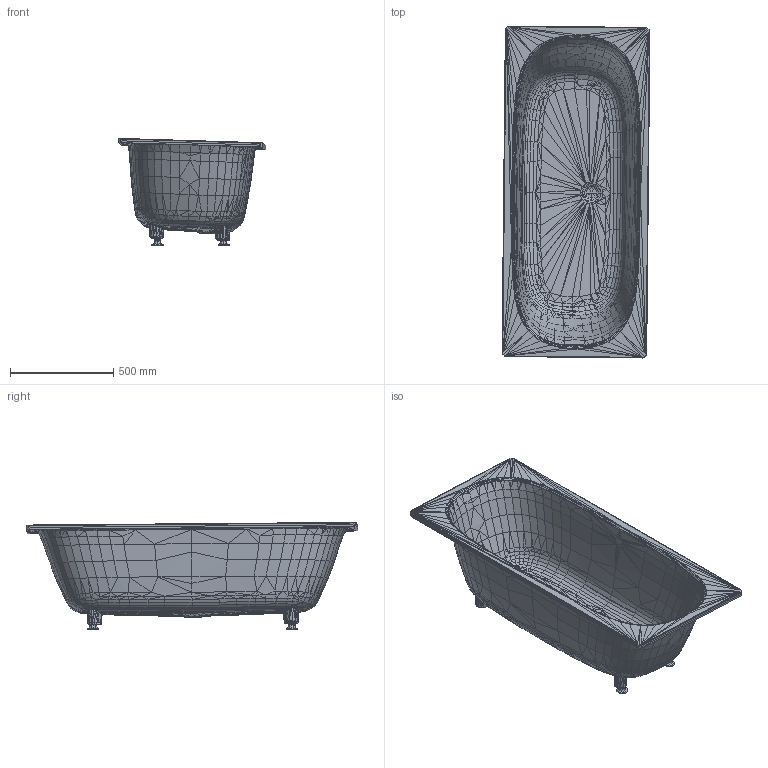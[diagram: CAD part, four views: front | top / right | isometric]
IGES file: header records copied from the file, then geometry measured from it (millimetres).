
Global section: file name: C:\Users\Sam Altman L JackSon\Downloads\Additional 2D and 3D files required for V+A NPD\Lussari 1600\Lussari 1600 - 3d igs.igs; native system: Rhinoceros ( Mar  4 2026 ); preprocessor: Trout Lake IGES 012 Mar  4 2026; date: 260508.111810; units: millimetre
Bounding box: 715.98 x 1606.85 x 519.13 mm (x, y, z)
Surface area: 4481853.6 mm2 (no closed solid volume)
Topology: 0 solids, 0 shells, 8466 faces, 27112 edges, 27112 vertices
Faces by surface type: bspline 8466
